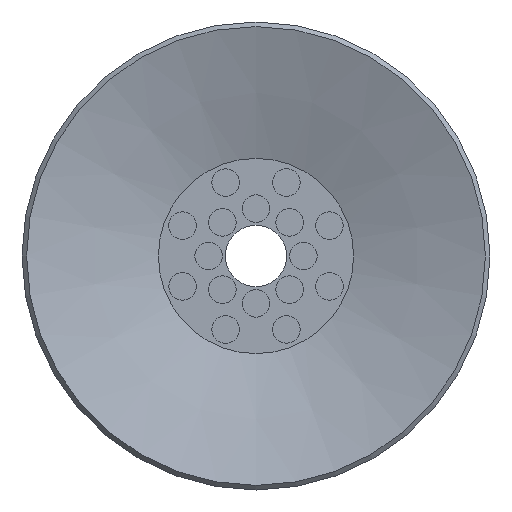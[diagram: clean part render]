
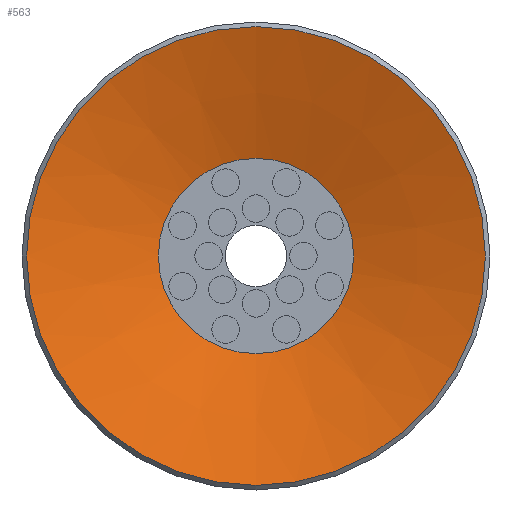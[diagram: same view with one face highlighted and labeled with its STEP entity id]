
A CAD part, front view. The second image highlights one B-rep face of the part: STEP entity #563.
In plain terms, the highlighted conical face has half-angle 72 degrees and reference radius 7.5 mm.
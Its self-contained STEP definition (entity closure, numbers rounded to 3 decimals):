
#563=ADVANCED_FACE('',(#923,#924),#925,.F.);
#923=FACE_BOUND('',#1604,.T.);
#924=FACE_OUTER_BOUND('',#1605,.T.);
#925=CONICAL_SURFACE('',#1606,7.5,1.257);
#1604=EDGE_LOOP('',(#2462));
#1605=EDGE_LOOP('',(#2463));
#1606=AXIS2_PLACEMENT_3D('',#2464,#2465,#2466);
#2462=ORIENTED_EDGE('',*,*,#3089,.T.);
#2463=ORIENTED_EDGE('',*,*,#3095,.F.);
#2464=CARTESIAN_POINT('',(0.0,0.,0.));
#2465=DIRECTION('',(0.0,0.,-1.0));
#2466=DIRECTION('',(0.0,1.0,0.));
#3089=EDGE_CURVE('',#3518,#3518,#3519,.T.);
#3095=EDGE_CURVE('',#3530,#3530,#3531,.T.);
#3518=VERTEX_POINT('',#4614);
#3519=CIRCLE('',#4615,3.191);
#3530=VERTEX_POINT('',#4626);
#3531=CIRCLE('',#4627,7.5);
#4614=CARTESIAN_POINT('',(0.0,-3.191,1.4));
#4615=AXIS2_PLACEMENT_3D('',#5189,#5190,#5191);
#4626=CARTESIAN_POINT('',(0.0,-7.5,0.));
#4627=AXIS2_PLACEMENT_3D('',#5207,#5208,#5209);
#5189=CARTESIAN_POINT('',(0.0,0.,1.4));
#5190=DIRECTION('',(0.0,0.,1.0));
#5191=DIRECTION('',(0.0,-1.0,0.));
#5207=CARTESIAN_POINT('',(0.0,0.,0.));
#5208=DIRECTION('',(0.0,0.,1.0));
#5209=DIRECTION('',(0.0,-1.0,0.));
